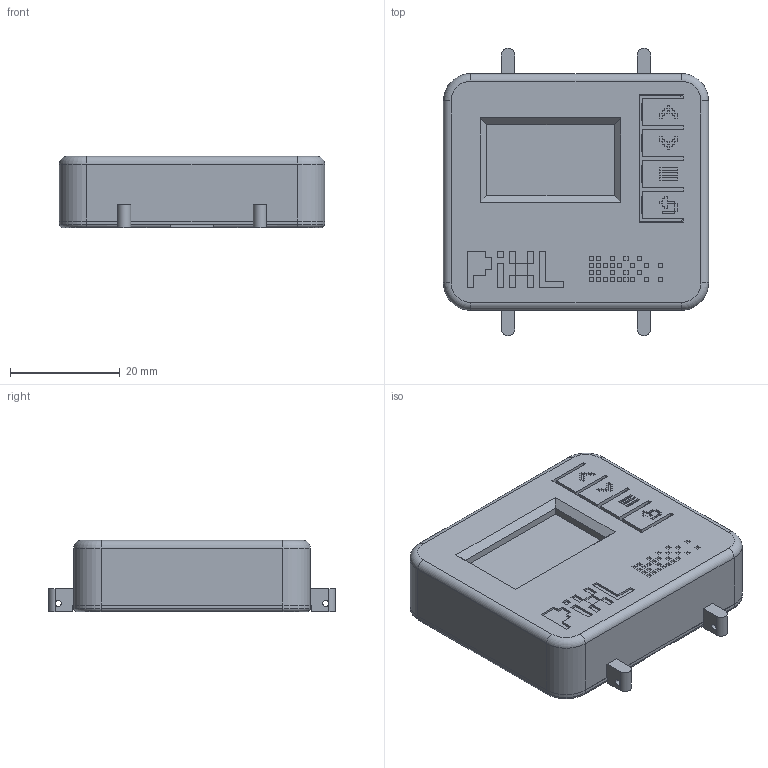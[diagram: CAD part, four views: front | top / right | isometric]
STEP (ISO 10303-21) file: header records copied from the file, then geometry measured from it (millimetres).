
FILE_DESCRIPTION(/* description */ (''),/* implementation_level */ '2;1');
FILE_NAME(/* name */ 'PIXL_case_v9_22mm_assembly.step',/* time_stamp */ '2026-11-07T11:46:54+01:00',/* author */ (''),/* organization */ (''),/* preprocessor_version */ 'ST-DEVELOPER v20.2',/* originating_system */ 'Autodesk Translation Framework v15.17.0.0',/* authorisation */ '');
FILE_SCHEMA (('AUTOMOTIVE_DESIGN { 1 0 10303 214 3 1 1 }'));
Length unit declared in the file: millimetre
Products named in the file (5): PIXL case; 0.96Oled_W_4_Buttons; PIXL Shell v9 22mm; PIXL Back v9 22mm; Internals v9 (reference)
Assembly tree (4 placements, depth 2):
  PIXL case
    0.96Oled_W_4_Buttons
    PIXL Shell v9 22mm
    PIXL Back v9 22mm
    Internals v9 (reference)
Bounding box: 48.4 x 52.4 x 13 mm (x, y, z)
Volume: 17545.7 mm3; surface area: 20665.6 mm2
Topology: 9 solids, 9 shells, 1509 faces, 3914 edges, 2554 vertices
Faces by surface type: plane 1015, bspline 404, cylinder 82, torus 8
Full cylindrical faces by diameter (mm): 1.1 x4, 1.6 x3, 2 x4, 2.4 x8, 3 x4, 10 x1, 20 x1, 20.6 x1
Entity records: 49445 total; most frequent: CARTESIAN_POINT 14854, ORIENTED_EDGE 7828, DIRECTION 5512, EDGE_CURVE 3914, LINE 2928, VECTOR 2928, VERTEX_POINT 2554, EDGE_LOOP 1668
